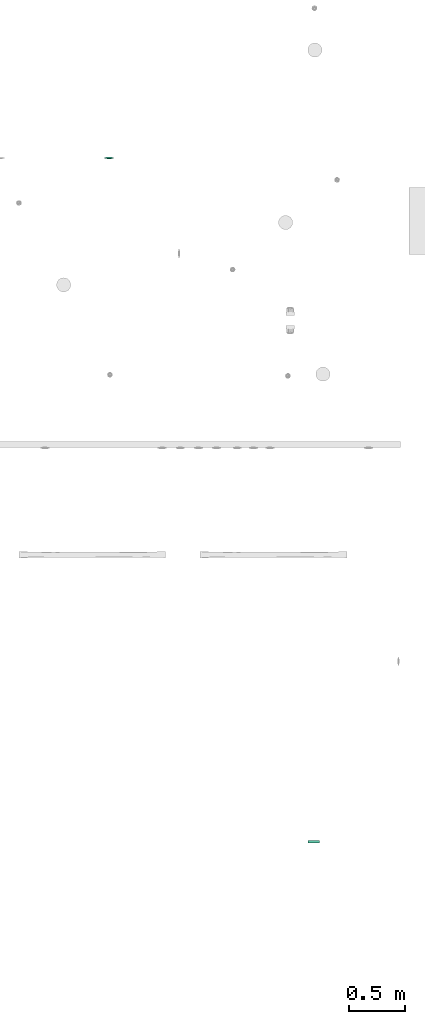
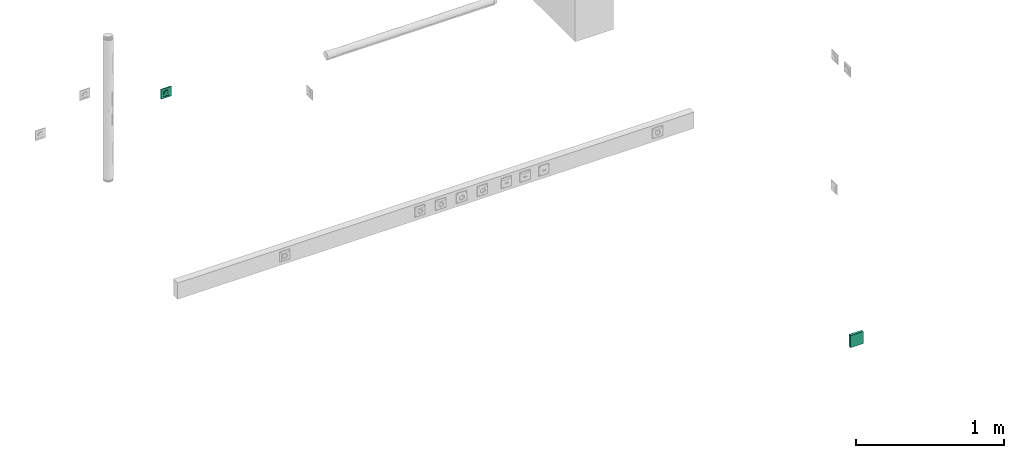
# One storey, part 85 of 166: 2 flow terminals.
"""IFC2X3 building model written with IfcOpenShell, lengths in metres."""

import ifcopenshell
import ifcopenshell.guid

model = None  # the IFC model being written
_history = None  # IfcOwnerHistory: only IFC2X3 demands one
_inside = {}  # id of a spatial element -> (the spatial element, [elements in it])
_under = {}  # id of a project, library or spatial element -> (it, [spatial elements below it])
_declared = {}  # id of a project -> (the project, [libraries it declares])
_typed = {}  # id of a type object -> (the type object, [elements of that type])
_made_of = {}  # id of a material, layer set ... -> (it, [elements and type objects made of it])


def new_model(schema):
    """Start an empty IFC model of exactly this schema.

    Asked for "IFC4X3", IfcOpenShell would pick the latest addendum, in which some entities
    have other attributes; the version numbers below select the first issue.
    IFC2X3 requires an IfcOwnerHistory on every rooted entity: one is made here for all.
    """
    global model, _history
    if schema == "IFC4X3":
        model = ifcopenshell.file(schema_version=(4, 3, 0, 0))
    else:
        model = ifcopenshell.file(schema=schema)
    _inside.clear()
    _under.clear()
    _declared.clear()
    _typed.clear()
    _made_of.clear()
    _history = None
    if model.schema == "IFC2X3":
        org = make("IfcOrganization", Name="unknown")
        user = make(
            "IfcPersonAndOrganization",
            ThePerson=make("IfcPerson", FamilyName="unknown"),
            TheOrganization=org,
        )
        app = make(
            "IfcApplication",
            ApplicationDeveloper=org,
            Version="unknown",
            ApplicationFullName="unknown",
            ApplicationIdentifier="unknown",
        )
        _history = make(
            "IfcOwnerHistory",
            OwningUser=user,
            OwningApplication=app,
            ChangeAction="ADDED",
            CreationDate=0,
        )
    return model


def make(cls, **values):
    """One entity of the class cls with the attributes given. An attribute that is None is left unset."""
    return model.create_entity(
        cls, **{name: value for name, value in values.items() if value is not None}
    )


def entity(cls, *values):
    """Any entity or typed value of the class cls, its attributes in the order of the schema. None: left unset."""
    e = model.create_entity(cls)
    for i, value in enumerate(values):
        if value is not None:
            e[i] = value
    return e


def rooted(cls, **values):
    """An entity with a GlobalId (a new one), such as an element, a storey or a relation."""
    return make(cls, GlobalId=ifcopenshell.guid.new(), OwnerHistory=_history, **values)


def si_unit(unit_type, name, prefix=None):
    """IfcSIUnit, for example si_unit("LENGTHUNIT", "METRE", prefix="MILLI")."""
    return make("IfcSIUnit", UnitType=unit_type, Prefix=prefix, Name=name)


def converted_unit(unit_type, name, factor, base, dimensions=None, offset=None):
    """IfcConversionBasedUnit, such as the inch: factor (a typed value) times the base unit."""
    return make(
        "IfcConversionBasedUnit"
        if offset is None
        else "IfcConversionBasedUnitWithOffset",
        ConversionOffset=offset,
        Dimensions=None
        if dimensions is None
        else entity("IfcDimensionalExponents", *dimensions),
        UnitType=unit_type,
        Name=name,
        ConversionFactor=make(
            "IfcMeasureWithUnit", ValueComponent=factor, UnitComponent=base
        ),
    )


def derived_unit(unit_type, elements):
    """IfcDerivedUnit: a product of units, each with its exponent."""
    return make(
        "IfcDerivedUnit",
        Elements=[
            make("IfcDerivedUnitElement", Unit=unit, Exponent=power)
            for unit, power in elements
        ],
        UnitType=unit_type,
    )


def assignment(units):
    """IfcUnitAssignment: the units of a project."""
    return None if units is None else make("IfcUnitAssignment", Units=units)


def point(xyz):
    """IfcCartesianPoint."""
    return None if xyz is None else make("IfcCartesianPoint", Coordinates=xyz)


def direction(xyz):
    """IfcDirection."""
    return None if xyz is None else make("IfcDirection", DirectionRatios=xyz)


def frame(location, z_axis=None, x_axis=None):
    """IfcAxis2Placement3D, a coordinate frame: its origin and axes. An axis left out is left unset."""
    return make(
        "IfcAxis2Placement3D",
        Location=point(location),
        Axis=direction(z_axis),
        RefDirection=direction(x_axis),
    )


def frame_2d(location, x_axis=None):
    """IfcAxis2Placement2D, a coordinate frame in the plane: its origin and x axis."""
    return make(
        "IfcAxis2Placement2D", Location=point(location), RefDirection=direction(x_axis)
    )


def origin():
    """The frame at (0, 0, 0) with its axes left unset."""
    return frame((0.0, 0.0, 0.0))


def origin_2d_with_axis():
    """The frame at (0, 0) in the plane with the x axis (1, 0) written out."""
    return frame_2d((0.0, 0.0), x_axis=(1.0, 0.0))


def place(relative_to, where):
    """IfcLocalPlacement: puts the frame where relative to a parent placement (None: the world)."""
    return make(
        "IfcLocalPlacement", PlacementRelTo=relative_to, RelativePlacement=where
    )


def context(
    kind, dimensions, precision=None, world=None, true_north=None, identifier=None
):
    """IfcGeometricRepresentationContext, for example the 3D "Model" context."""
    return make(
        "IfcGeometricRepresentationContext",
        ContextIdentifier=identifier,
        ContextType=kind,
        CoordinateSpaceDimension=dimensions,
        Precision=precision,
        WorldCoordinateSystem=world,
        TrueNorth=true_north,
    )


def subcontext(parent, identifier, kind, view, scale=None):
    """IfcGeometricRepresentationSubContext, for example "Body" below "Model"."""
    return make(
        "IfcGeometricRepresentationSubContext",
        ContextIdentifier=identifier,
        ContextType=kind,
        ParentContext=parent,
        TargetScale=scale,
        TargetView=view,
    )


def project(units=None, contexts=None):
    """IfcProject with its units and contexts."""
    return rooted(
        "IfcProject",
        Name="project",
        RepresentationContexts=contexts,
        UnitsInContext=assignment(units),
    )


def spatial(cls, under=None, at=None, **own):
    """A site, building, storey or space (cls), placed at a placement, below another one or the project."""
    s = rooted(cls, ObjectPlacement=at, **own)
    if under is not None:
        _under.setdefault(under.id(), (under, []))[1].append(s)
    return s


def profile(cls, at=None, kind="AREA", **sizes):
    """A parametric profile (cls). Its sizes go by their IFC names, for example OverallWidth=200.0."""
    return make(cls, ProfileType=kind, Position=at, **sizes)


def rectangle(**sizes):
    """IfcRectangleProfileDef."""
    return profile("IfcRectangleProfileDef", **sizes)


def extrude(swept, where, along, depth):
    """IfcExtrudedAreaSolid: the profile swept, set in the frame where, extruded along a direction by depth."""
    return make(
        "IfcExtrudedAreaSolid",
        SweptArea=swept,
        Position=where,
        ExtrudedDirection=direction(along),
        Depth=depth,
    )


def faces_of(points, faces, orient=None, outer=None):
    """IfcFace entities. A face is a list of loops; a loop is a list of indices into points, from 0.

    orient and outer hold one flag for each loop. By default every Orientation is true, the
    first loop of a face is its IfcFaceOuterBound and the others are IfcFaceBound.
    """
    made = []
    for i, loops in enumerate(faces):
        bounds = []
        for j, loop in enumerate(loops):
            is_outer = j == 0 if outer is None else outer[i][j]
            bounds.append(
                make(
                    "IfcFaceOuterBound" if is_outer else "IfcFaceBound",
                    Bound=make("IfcPolyLoop", Polygon=[points[k] for k in loop]),
                    Orientation=True if orient is None else orient[i][j],
                )
            )
        made.append(make("IfcFace", Bounds=bounds))
    return made


def face_set(faces, orient=None, outer=None):
    """The faces of one IfcConnectedFaceSet. surface_model builds it on its shared points."""
    return ("IfcConnectedFaceSet", faces, orient, outer)


def surface_model(cls, points, shells):
    """IfcFaceBasedSurfaceModel or IfcShellBasedSurfaceModel (cls): surfaces that need not close."""
    shared = [point(p) for p in points]
    made = [make(c, CfsFaces=faces_of(shared, fs, o, b)) for c, fs, o, b in shells]
    if cls == "IfcFaceBasedSurfaceModel":
        return make(cls, FbsmFaces=made)
    return make(cls, SbsmBoundary=made)


def shape(context_of_items, identifier, shape_type, items):
    """IfcShapeRepresentation: the items that make up one representation, for example the "Body"."""
    return make(
        "IfcShapeRepresentation",
        ContextOfItems=context_of_items,
        RepresentationIdentifier=identifier,
        RepresentationType=shape_type,
        Items=items,
    )


def source(mapping_origin, context_of_items, identifier, shape_type, items):
    """IfcRepresentationMap: a shape defined once, which mapped items show again and again."""
    return make(
        "IfcRepresentationMap",
        MappingOrigin=mapping_origin,
        MappedRepresentation=shape(context_of_items, identifier, shape_type, items),
    )


def transform(
    local_origin,
    x_axis=None,
    y_axis=None,
    z_axis=None,
    scale=None,
    scale2=None,
    scale3=None,
    uniform=True,
):
    """IfcCartesianTransformationOperator3D, or its non-uniform kind. x_axis, y_axis, z_axis: its Axis1, 2, 3."""
    if uniform:
        return make(
            "IfcCartesianTransformationOperator3D",
            Axis1=direction(x_axis),
            Axis2=direction(y_axis),
            LocalOrigin=point(local_origin),
            Scale=scale,
            Axis3=direction(z_axis),
        )
    return make(
        "IfcCartesianTransformationOperator3DnonUniform",
        Axis1=direction(x_axis),
        Axis2=direction(y_axis),
        LocalOrigin=point(local_origin),
        Scale=scale,
        Axis3=direction(z_axis),
        Scale2=scale2,
        Scale3=scale3,
    )


def mapped(mapping_source, mapping_target):
    """IfcMappedItem: shows the shape of a source again, moved by a transform."""
    return make(
        "IfcMappedItem", MappingSource=mapping_source, MappingTarget=mapping_target
    )


def made_of(thing, what):
    """Note that an element or type object is made of a material, layer set ...; save() writes the relation."""
    if what is not None:
        _made_of.setdefault(what.id(), (what, []))[1].append(thing)
    return thing


def type_object(cls, material=None, **own):
    """A type object (cls), such as IfcWallType, which elements share."""
    return made_of(rooted(cls, **own), material)


def type_shapes(of_type, sources):
    """Give a type object the sources (RepresentationMaps) that its elements show as mapped items."""
    of_type.RepresentationMaps = sources


def element(
    cls,
    number,
    at=None,
    inside=None,
    cuts=None,
    type_object=None,
    material=None,
    context=None,
    identifier="Body",
    shape_type=None,
    held_by="IfcProductDefinitionShape",
    body=None,
    shapes=None,
    **own,
):
    """One element of the class cls, such as IfcWall. Its Tag is "e" and its number.

    at: its placement. inside: the storey or other place that contains it. cuts: it is an
    opening in that element (IfcRelVoidsElement). A single representation is given by context,
    identifier, shape_type and body (its items); several are given by shapes. held_by: the class
    of the entity that holds the representations. save() writes the other relations.
    """
    e = rooted(cls, Tag="e%d" % number, ObjectPlacement=at, **own)
    if body is not None:
        shapes = [shape(context, identifier, shape_type, body)]
    if shapes is not None:
        e.Representation = make(held_by, Representations=shapes)
    if inside is not None:
        _inside.setdefault(inside.id(), (inside, []))[1].append(e)
    if cuts is not None:
        rooted(
            "IfcRelVoidsElement", RelatingBuildingElement=cuts, RelatedOpeningElement=e
        )
    if type_object is not None:
        _typed.setdefault(type_object.id(), (type_object, []))[1].append(e)
    return made_of(e, material)


def aggregate(whole, parts):
    """IfcRelAggregates: a whole, such as a stair, and the parts it consists of."""
    return rooted("IfcRelAggregates", RelatingObject=whole, RelatedObjects=parts)


def save(model, path):
    """Write the relations noted so far, then the file.

    IfcRelAggregates (storeys below a building ...), IfcRelContainedInSpatialStructure (elements
    in a storey), IfcRelDefinesByType, IfcRelAssociatesMaterial and IfcRelDeclares: one each for
    every whole, place, type object, material and project.
    """
    for whole, parts in _under.values():
        aggregate(whole, parts)
    for where, things in _inside.values():
        rooted(
            "IfcRelContainedInSpatialStructure",
            RelatedElements=things,
            RelatingStructure=where,
        )
    for kind, things in _typed.values():
        rooted("IfcRelDefinesByType", RelatedObjects=things, RelatingType=kind)
    for what, things in _made_of.values():
        rooted("IfcRelAssociatesMaterial", RelatedObjects=things, RelatingMaterial=what)
    for by, libraries in _declared.values():
        rooted("IfcRelDeclares", RelatingContext=by, RelatedDefinitions=libraries)
    model.write(path)


model = new_model("IFC2X3")

# Units and contexts
model_context = context("Model", 3, precision=1e-05, world=origin(), true_north=direction((6.12303176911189e-17, 1.0)))
body_context = subcontext(model_context, "Body", "Model", "MODEL_VIEW")
ifc_project = project(units=[si_unit("LENGTHUNIT", "METRE"), si_unit("AREAUNIT", "SQUARE_METRE"), si_unit("VOLUMEUNIT", "CUBIC_METRE"), converted_unit("PLANEANGLEUNIT", "DEGREE", entity("IfcRatioMeasure", 0.0174532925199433), si_unit("PLANEANGLEUNIT", "RADIAN"), dimensions=[0, 0, 0, 0, 0, 0, 0]), si_unit("MASSUNIT", "GRAM", prefix="KILO"), derived_unit("MASSDENSITYUNIT", [(si_unit("MASSUNIT", "GRAM", prefix="KILO"), 1), (si_unit("LENGTHUNIT", "METRE"), -3)]), si_unit("TIMEUNIT", "SECOND"), si_unit("FREQUENCYUNIT", "HERTZ"), si_unit("THERMODYNAMICTEMPERATUREUNIT", "DEGREE_CELSIUS"), derived_unit("THERMALTRANSMITTANCEUNIT", [(si_unit("MASSUNIT", "GRAM", prefix="KILO"), 1), (si_unit("THERMODYNAMICTEMPERATUREUNIT", "KELVIN"), -1), (si_unit("TIMEUNIT", "SECOND"), -3)]), derived_unit("VOLUMETRICFLOWRATEUNIT", [(si_unit("LENGTHUNIT", "METRE"), 3), (si_unit("TIMEUNIT", "SECOND"), -1)]), si_unit("ELECTRICCURRENTUNIT", "AMPERE"), si_unit("ELECTRICVOLTAGEUNIT", "VOLT"), si_unit("POWERUNIT", "WATT"), si_unit("FORCEUNIT", "NEWTON"), si_unit("ILLUMINANCEUNIT", "LUX"), si_unit("LUMINOUSFLUXUNIT", "LUMEN"), si_unit("LUMINOUSINTENSITYUNIT", "CANDELA"), derived_unit("USERDEFINED", [(si_unit("MASSUNIT", "GRAM", prefix="KILO"), -1), (si_unit("LENGTHUNIT", "METRE"), -2), (si_unit("TIMEUNIT", "SECOND"), 3), (si_unit("LUMINOUSFLUXUNIT", "LUMEN"), 1)]), derived_unit("LINEARVELOCITYUNIT", [(si_unit("LENGTHUNIT", "METRE"), 1), (si_unit("TIMEUNIT", "SECOND"), -1)]), si_unit("PRESSUREUNIT", "PASCAL"), derived_unit("USERDEFINED", [(si_unit("LENGTHUNIT", "METRE"), -2), (si_unit("MASSUNIT", "GRAM", prefix="KILO"), 1), (si_unit("TIMEUNIT", "SECOND"), -2)])], contexts=[model_context])

# Site, building, storey
site_placement = place(None, origin())
site = spatial("IfcSite", under=ifc_project, at=site_placement, Name="Default", CompositionType="ELEMENT")
building_placement = place(site_placement, origin())
building = spatial("IfcBuilding", under=site, at=building_placement, CompositionType="ELEMENT")
storey_placement = place(building_placement, frame((0.0, 0.0, 4.27)))
storey = spatial("IfcBuildingStorey", under=building, at=storey_placement, Name="01", CompositionType="ELEMENT", Elevation=4.27)

# Flow terminals
light_fixture_type_1 = type_object("IfcLightFixtureType", Name="Default", PredefinedType="NOTDEFINED")
shared_shape_1 = source(origin(), body_context, "Body", "SweptSolid", [
    extrude(rectangle(XDim=0.1, YDim=0.1, at=origin_2d_with_axis()), frame((0.0, 0.0, 0.0), z_axis=(0.0, 0.0, 1.0), x_axis=(0.0, 1.0, 0.0)), (0.0, 0.0, 1.0), 0.02),
])
type_shapes(light_fixture_type_1, [shared_shape_1])
flow_terminal_1_placement = place(building_placement, frame((48.6692599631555, -193.489651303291, 5.32000000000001), z_axis=(0.0, -1.0, 0.0), x_axis=(1.0, 0.0, 0.0)))
element("IfcFlowTerminal", 1, at=flow_terminal_1_placement, inside=storey, type_object=light_fixture_type_1, Name="E_Reader_Badge 1_F_MEPcontent:Default", ObjectType="E_Reader_Badge 1_F_MEPcontent:Default", context=body_context, shape_type="MappedRepresentation", body=[
    mapped(shared_shape_1, transform((0.0, 0.0, 0.0), scale=1.0)),
])
light_fixture_type_2 = type_object("IfcLightFixtureType", Name="Attente", PredefinedType="NOTDEFINED")
shared_shape_2 = source(origin(), body_context, "Body", "SurfaceModel", [
    surface_model("IfcFaceBasedSurfaceModel", [(0.00225000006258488, 0.00949633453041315, 0.0127499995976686), (0.0, 0.00949633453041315, 0.0104999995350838), (0.0, 0.0101656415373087, 0.0115376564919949), (0.0, 0.0101656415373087, 0.0139623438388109), (0.0, 0.00984531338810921, 0.0144589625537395), (0.0, 0.0102778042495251, 0.0121178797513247), (0.0, 0.0102778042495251, 0.0133821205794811), (0.0, 0.010399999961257, 0.0127499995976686), (0.0, 0.00949633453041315, 0.0149999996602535), (-0.00225000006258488, 0.00949633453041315, 0.0127499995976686), (0.0, 0.00984531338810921, 0.0110410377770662), (0.0, 0.00949633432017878, 0.0127499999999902), (-0.0022499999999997, 0.0094963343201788, 0.0127499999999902), (-0.00217333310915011, 0.00949633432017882, 0.0121676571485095), (-0.0019485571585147, 0.00949633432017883, 0.0116249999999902), (-0.00159099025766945, 0.00949633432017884, 0.0111590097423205), (-0.00112499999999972, 0.00949633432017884, 0.0108014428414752), (-0.000582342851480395, 0.00949633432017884, 0.0105766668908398), (0.0, 0.00949633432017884, 0.0104999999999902), (0.000582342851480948, 0.00949633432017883, 0.0105766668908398), (0.00112500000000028, 0.00949633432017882, 0.0108014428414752), (0.00159099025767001, 0.00949633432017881, 0.0111590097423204), (0.00194855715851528, 0.00949633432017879, 0.0116249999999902), (0.0021733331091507, 0.00949633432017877, 0.0121676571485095), (0.0022500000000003, 0.00949633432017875, 0.0127499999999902), (0.00217333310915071, 0.00949633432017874, 0.0133323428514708), (0.0019485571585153, 0.00949633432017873, 0.0138749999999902), (0.00159099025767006, 0.00949633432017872, 0.0143409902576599), (0.00112500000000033, 0.00949633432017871, 0.0146985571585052), (0.000582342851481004, 0.00949633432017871, 0.0149233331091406), (0.0, 0.00949633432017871, 0.0149999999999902), (-0.000582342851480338, 0.00949633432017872, 0.0149233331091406), (-0.00112499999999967, 0.00949633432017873, 0.0146985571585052), (-0.00159099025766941, 0.00949633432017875, 0.0143409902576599), (-0.00194855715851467, 0.00949633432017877, 0.0138749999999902), (-0.00217333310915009, 0.00949633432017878, 0.0133323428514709), (-0.00224999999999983, -0.00360000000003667, 0.0127499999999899), (-0.00217333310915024, -0.00360000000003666, 0.0121676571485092), (-0.00194855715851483, -0.00360000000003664, 0.0116249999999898), (-0.00159099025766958, -0.00360000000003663, 0.0111590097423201), (-0.00112499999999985, -0.00360000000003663, 0.0108014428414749), (-0.000582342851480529, -0.00360000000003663, 0.0105766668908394), (0.0, -0.00360000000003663, 0.0104999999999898), (0.000582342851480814, -0.00360000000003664, 0.0105766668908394), (0.00112500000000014, -0.00360000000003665, 0.0108014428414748), (0.00159099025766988, -0.00360000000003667, 0.0111590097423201), (0.00194855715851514, -0.00360000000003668, 0.0116249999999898), (0.00217333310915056, -0.0036000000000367, 0.0121676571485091), (0.00225000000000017, -0.00360000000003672, 0.0127499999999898), (0.00217333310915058, -0.00360000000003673, 0.0133323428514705), (0.00194855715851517, -0.00360000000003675, 0.0138749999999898), (0.00159099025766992, -0.00360000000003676, 0.0143409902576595), (0.00112500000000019, -0.00360000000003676, 0.0146985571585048), (0.00058234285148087, -0.00360000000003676, 0.0149233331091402), (0.0, -0.00360000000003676, 0.0149999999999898), (-0.000582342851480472, -0.00360000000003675, 0.0149233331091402), (-0.0011249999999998, -0.00360000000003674, 0.0146985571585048), (-0.00159099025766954, -0.00360000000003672, 0.0143409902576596), (-0.0019485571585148, -0.00360000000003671, 0.0138749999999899), (-0.00217333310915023, -0.00360000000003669, 0.0133323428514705), (-0.0270000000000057, 0.0113999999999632, 0.0269999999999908), (0.0269999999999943, 0.0113999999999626, 0.0269999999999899), (0.0269999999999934, 0.0113999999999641, -0.0270000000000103), (-0.0270000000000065, 0.0113999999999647, -0.0270000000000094), (0.0199999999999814, 0.0113999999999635, 0.0), (0.0193185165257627, 0.0113999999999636, -0.00517638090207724), (0.0173205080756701, 0.0113999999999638, -0.0100000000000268), (0.0141421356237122, 0.0113999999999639, -0.0141421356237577), (0.00999999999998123, 0.011399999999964, -0.0173205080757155), (0.00517638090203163, 0.0113999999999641, -0.019318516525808), (0.0, 0.0113999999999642, -0.0200000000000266), (-0.00517638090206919, 0.0113999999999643, -0.0193185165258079), (-0.0100000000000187, 0.0113999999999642, -0.0173205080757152), (-0.0141421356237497, 0.0113999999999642, -0.0141421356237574), (-0.0173205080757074, 0.0113999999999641, -0.0100000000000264), (-0.0193185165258, 0.011399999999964, -0.0051763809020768), (-0.0200000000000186, 0.0113999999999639, 0.0), (-0.0193185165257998, 0.0113999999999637, 0.00517638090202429), (-0.0173205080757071, 0.0113999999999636, 0.00999999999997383), (-0.0141421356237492, 0.0113999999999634, 0.0141421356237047), (-0.0100000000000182, 0.0113999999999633, 0.0173205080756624), (-0.00517638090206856, 0.0113999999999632, 0.0193185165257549), (0.0, 0.0113999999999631, 0.0199999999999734), (0.00517638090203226, 0.0113999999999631, 0.0193185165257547), (0.0099999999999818, 0.0113999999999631, 0.017320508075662), (0.0141421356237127, 0.0113999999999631, 0.0141421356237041), (0.0173205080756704, 0.0113999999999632, 0.00999999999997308), (0.0193185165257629, 0.0113999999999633, 0.00517638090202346), (-0.0270000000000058, 0.00199999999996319, 0.0269999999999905), (-0.0270000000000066, 0.00199999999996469, -0.0270000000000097), (0.0269999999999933, 0.00199999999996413, -0.0270000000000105), (0.0269999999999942, 0.00199999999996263, 0.0269999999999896), (-0.0210000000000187, 0.00199999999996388, 0.0), (-0.0202844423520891, 0.00199999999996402, -0.00543519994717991), (-0.0181865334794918, 0.00199999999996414, -0.0105000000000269), (-0.0148492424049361, 0.00199999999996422, -0.0148492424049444), (-0.0105000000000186, 0.00199999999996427, -0.0181865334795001), (-0.00543519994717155, 0.00199999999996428, -0.0202844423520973), (0.0, 0.00199999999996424, -0.0210000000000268), (0.00543519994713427, 0.00199999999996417, -0.0202844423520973), (0.0104999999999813, 0.00199999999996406, -0.0181865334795), (0.0148492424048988, 0.00199999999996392, -0.0148492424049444), (0.0181865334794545, 0.00199999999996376, -0.0105000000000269), (0.0202844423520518, 0.0019999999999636, -0.00543519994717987), (0.0209999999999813, 0.00199999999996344, 0.0), (0.0202844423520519, 0.0019999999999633, 0.0054351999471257), (0.0181865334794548, 0.00199999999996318, 0.0104999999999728), (0.0148492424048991, 0.00199999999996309, 0.0148492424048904), (0.0104999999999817, 0.00199999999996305, 0.0181865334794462), (0.00543519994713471, 0.00199999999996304, 0.0202844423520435), (0.0, 0.00199999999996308, 0.0209999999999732), (-0.00543519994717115, 0.00199999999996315, 0.0202844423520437), (-0.0105000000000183, 0.00199999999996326, 0.0181865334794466), (-0.0148492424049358, 0.0019999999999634, 0.014849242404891), (-0.0181865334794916, 0.00199999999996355, 0.0104999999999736), (-0.020284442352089, 0.00199999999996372, 0.00543519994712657), (-0.0200000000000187, -0.00360000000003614, 0.0), (-0.0193185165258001, -0.003600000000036, -0.00517638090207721), (-0.0173205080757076, -0.00360000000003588, -0.0100000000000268), (-0.0141421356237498, -0.0036000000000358, -0.0141421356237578), (-0.0100000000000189, -0.00360000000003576, -0.0173205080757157), (-0.00517638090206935, -0.00360000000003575, -0.0193185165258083), (0.0, -0.00360000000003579, -0.020000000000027), (0.00517638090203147, -0.00360000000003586, -0.0193185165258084), (0.00999999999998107, -0.00360000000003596, -0.0173205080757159), (0.0141421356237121, -0.00360000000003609, -0.0141421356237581), (0.0173205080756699, -0.00360000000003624, -0.0100000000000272), (0.0193185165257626, -0.0036000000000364, -0.00517638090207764), (0.0199999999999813, -0.00360000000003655, 0.0), (0.0193185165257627, -0.00360000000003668, 0.00517638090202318), (0.0173205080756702, -0.0036000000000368, 0.00999999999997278), (0.0141421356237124, -0.00360000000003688, 0.0141421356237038), (0.00999999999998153, -0.00360000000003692, 0.0173205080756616), (0.00517638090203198, -0.00360000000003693, 0.0193185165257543), (0.0, -0.0036000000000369, 0.019999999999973), (-0.00517638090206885, -0.00360000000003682, 0.0193185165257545), (-0.0100000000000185, -0.00360000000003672, 0.0173205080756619), (-0.0141421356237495, -0.00360000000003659, 0.0141421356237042), (-0.0173205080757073, -0.00360000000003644, 0.00999999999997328), (-0.0193185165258, -0.00360000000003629, 0.00517638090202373), (0.0123499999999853, -0.00360000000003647, 0.0), (0.0122562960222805, -0.00360000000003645, -0.000711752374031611), (0.0119815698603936, -0.00360000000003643, -0.00137499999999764), (0.0115445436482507, -0.00360000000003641, -0.00194454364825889), (0.0109749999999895, -0.00360000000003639, -0.00238156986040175), (0.0103117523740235, -0.00360000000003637, -0.00265629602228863), (0.00959999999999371, -0.00360000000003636, -0.00274999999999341), (0.00888824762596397, -0.00360000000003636, -0.00265629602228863), (0.00822499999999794, -0.00360000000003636, -0.00238156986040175), (0.00765545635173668, -0.00360000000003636, -0.00194454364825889), (0.00721843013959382, -0.00360000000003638, -0.00137499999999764), (0.00694370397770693, -0.00360000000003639, -0.000711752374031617), (0.00685000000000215, -0.00360000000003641, 0.0), (0.00694370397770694, -0.00360000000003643, 0.000711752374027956), (0.00721843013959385, -0.00360000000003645, 0.00137499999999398), (0.00765545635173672, -0.00360000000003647, 0.00194454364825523), (0.00822499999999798, -0.00360000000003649, 0.00238156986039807), (0.00888824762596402, -0.00360000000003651, 0.00265629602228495), (0.00959999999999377, -0.00360000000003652, 0.0027499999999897), (0.0103117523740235, -0.00360000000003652, 0.00265629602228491), (0.0109749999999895, -0.00360000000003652, 0.00238156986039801), (0.0115445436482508, -0.00360000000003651, 0.00194454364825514), (0.0119815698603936, -0.0036000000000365, 0.00137499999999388), (0.0122562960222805, -0.00360000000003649, 0.000711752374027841), (-0.00685000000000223, -0.00360000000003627, 0.0), (-0.00694370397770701, -0.00360000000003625, -0.000711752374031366), (-0.0072184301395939, -0.00360000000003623, -0.00137499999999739), (-0.00765545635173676, -0.00360000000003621, -0.00194454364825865), (-0.00822499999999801, -0.00360000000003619, -0.0023815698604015), (-0.00888824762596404, -0.00360000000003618, -0.00265629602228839), (-0.00959999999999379, -0.00360000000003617, -0.00274999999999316), (-0.0103117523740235, -0.00360000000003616, -0.00265629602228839), (-0.0109749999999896, -0.00360000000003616, -0.00238156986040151), (-0.0115445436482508, -0.00360000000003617, -0.00194454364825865), (-0.0119815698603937, -0.00360000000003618, -0.0013749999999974), (-0.0122562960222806, -0.0036000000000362, -0.000711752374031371), (-0.0123499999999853, -0.00360000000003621, 0.0), (-0.0122562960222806, -0.00360000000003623, 0.000711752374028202), (-0.0119815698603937, -0.00360000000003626, 0.00137499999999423), (-0.0115445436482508, -0.00360000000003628, 0.00194454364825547), (-0.0109749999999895, -0.00360000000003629, 0.00238156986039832), (-0.0103117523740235, -0.00360000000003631, 0.00265629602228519), (-0.00959999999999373, -0.00360000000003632, 0.00274999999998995), (-0.00888824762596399, -0.00360000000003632, 0.00265629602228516), (-0.00822499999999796, -0.00360000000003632, 0.00238156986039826), (-0.00765545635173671, -0.00360000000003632, 0.00194454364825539), (-0.00721843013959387, -0.0036000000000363, 0.00137499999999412), (-0.00694370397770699, -0.00360000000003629, 0.000711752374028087), (-0.0210000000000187, -0.00460000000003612, 0.0), (-0.0202844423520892, -0.00460000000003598, -0.00543519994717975), (-0.018186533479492, -0.00460000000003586, -0.0105000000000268), (-0.0148492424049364, -0.00460000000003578, -0.0148492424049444), (-0.0105000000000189, -0.00460000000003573, -0.0181865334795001), (-0.00543519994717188, -0.00460000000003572, -0.0202844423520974), (0.0, -0.00460000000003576, -0.021000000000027), (0.00543519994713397, -0.00460000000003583, -0.0202844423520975), (0.0104999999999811, -0.00460000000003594, -0.0181865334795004), (0.0148492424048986, -0.00460000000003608, -0.0148492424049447), (0.0181865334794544, -0.00460000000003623, -0.0105000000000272), (0.0202844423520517, -0.0046000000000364, -0.0054351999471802), (0.0209999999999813, -0.00460000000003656, 0.0), (0.0202844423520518, -0.0046000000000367, 0.00543519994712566), (0.0181865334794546, -0.00460000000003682, 0.0104999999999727), (0.014849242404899, -0.00460000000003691, 0.0148492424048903), (0.0104999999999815, -0.00460000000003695, 0.0181865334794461), (0.0054351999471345, -0.00460000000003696, 0.0202844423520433), (0.0, -0.00460000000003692, 0.020999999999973), (-0.00543519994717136, -0.00460000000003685, 0.0202844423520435), (-0.0105000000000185, -0.00460000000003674, 0.0181865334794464), (-0.014849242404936, -0.0046000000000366, 0.0148492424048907), (-0.0181865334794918, -0.00460000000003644, 0.0104999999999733), (-0.0202844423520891, -0.00460000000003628, 0.00543519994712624), (0.00685000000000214, -0.00460000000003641, 0.0), (0.00694370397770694, -0.00460000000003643, 0.000711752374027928), (0.00721843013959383, -0.00460000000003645, 0.00137499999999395), (0.0076554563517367, -0.00460000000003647, 0.0019445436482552), (0.00822499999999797, -0.00460000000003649, 0.00238156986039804), (0.00888824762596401, -0.0046000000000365, 0.00265629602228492), (0.00959999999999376, -0.00460000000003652, 0.00274999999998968), (0.0103117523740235, -0.00460000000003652, 0.00265629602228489), (0.0109749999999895, -0.00460000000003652, 0.00238156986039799), (0.0115445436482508, -0.00460000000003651, 0.00194454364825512), (0.0119815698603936, -0.0046000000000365, 0.00137499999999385), (0.0122562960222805, -0.00460000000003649, 0.000711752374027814), (0.0123499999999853, -0.00460000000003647, 0.0), (0.0122562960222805, -0.00460000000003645, -0.00071175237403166), (0.0119815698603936, -0.00460000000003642, -0.00137499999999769), (0.0115445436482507, -0.0046000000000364, -0.00194454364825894), (0.0109749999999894, -0.00460000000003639, -0.00238156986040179), (0.0103117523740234, -0.00460000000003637, -0.00265629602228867), (0.00959999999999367, -0.00460000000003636, -0.00274999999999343), (0.00888824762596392, -0.00460000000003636, -0.00265629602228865), (0.00822499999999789, -0.00460000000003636, -0.00238156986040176), (0.00765545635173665, -0.00460000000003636, -0.00194454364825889), (0.00721843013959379, -0.00460000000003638, -0.00137499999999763), (0.00694370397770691, -0.00460000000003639, -0.0007117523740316), (-0.0123499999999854, -0.00460000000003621, 0.0), (-0.0122562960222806, -0.00460000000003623, 0.000711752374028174), (-0.0119815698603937, -0.00460000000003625, 0.0013749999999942), (-0.0115445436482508, -0.00460000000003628, 0.00194454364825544), (-0.0109749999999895, -0.00460000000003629, 0.00238156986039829), (-0.0103117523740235, -0.00460000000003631, 0.00265629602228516), (-0.00959999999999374, -0.00460000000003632, 0.00274999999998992), (-0.008888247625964, -0.00460000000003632, 0.00265629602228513), (-0.00822499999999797, -0.00460000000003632, 0.00238156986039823), (-0.00765545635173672, -0.00460000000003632, 0.00194454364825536), (-0.00721843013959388, -0.0046000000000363, 0.0013749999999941), (-0.006943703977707, -0.00460000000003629, 0.000711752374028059), (-0.00685000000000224, -0.00460000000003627, 0.0), (-0.00694370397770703, -0.00460000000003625, -0.000711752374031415), (-0.00721843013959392, -0.00460000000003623, -0.00137499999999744), (-0.00765545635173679, -0.00460000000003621, -0.00194454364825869), (-0.00822499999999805, -0.00460000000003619, -0.00238156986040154), (-0.00888824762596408, -0.00460000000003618, -0.00265629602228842), (-0.00959999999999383, -0.00460000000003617, -0.00274999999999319), (-0.0103117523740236, -0.00460000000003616, -0.00265629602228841), (-0.0109749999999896, -0.00460000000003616, -0.00238156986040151), (-0.0115445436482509, -0.00460000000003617, -0.00194454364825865), (-0.0119815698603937, -0.00460000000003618, -0.00137499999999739), (-0.0122562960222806, -0.00460000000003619, -0.000711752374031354), (-0.0403499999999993, 0.00659999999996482, 0.0403499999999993), (-0.0403500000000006, 0.00659999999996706, -0.0403500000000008), (0.0403499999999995, 0.00659999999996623, -0.0403500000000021), (0.0403500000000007, 0.00659999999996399, 0.040349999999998), (-0.0269999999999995, 0.00659999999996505, 0.026999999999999), (0.0270000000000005, 0.0065999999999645, 0.0269999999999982), (0.0269999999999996, 0.006599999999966, -0.0270000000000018), (-0.0270000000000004, 0.00659999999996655, -0.027000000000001), (-0.0269999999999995, 0.0103999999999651, 0.0269999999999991), (0.0270000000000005, 0.0103999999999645, 0.0269999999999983), (0.0269999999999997, 0.010399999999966, -0.0270000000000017), (-0.0270000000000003, 0.0103999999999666, -0.0270000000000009), (-0.0403499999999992, 0.00659999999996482, 0.0403499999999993), (-0.0403500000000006, 0.00659999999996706, -0.0403500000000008), (0.0403499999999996, 0.00659999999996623, -0.0403500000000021), (0.0403500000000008, 0.00659999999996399, 0.040349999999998), (0.0270000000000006, 0.0065999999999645, 0.0269999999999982), (0.0269999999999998, 0.006599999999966, -0.0270000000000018), (-0.0270000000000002, 0.00659999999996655, -0.027000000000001), (-0.0269999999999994, 0.00659999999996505, 0.026999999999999), (-0.0403499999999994, 0.0, 0.0403499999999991), (-0.0403500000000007, 0.0, -0.040350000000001), (0.0403499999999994, 0.0, -0.0403500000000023), (0.0403500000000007, 0.0, 0.0403499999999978), (-0.0269999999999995, 0.0, 0.0269999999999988), (0.0270000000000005, 0.0, 0.026999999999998), (0.0269999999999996, 0.0, -0.027000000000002), (-0.0270000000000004, 0.0, -0.0270000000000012)], [face_set([[[0, 1, 2]], [[3, 4, 2, 5]], [[6, 3, 5, 7]], [[2, 4, 0]], [[4, 8, 0]], [[3, 9, 8]], [[1, 9, 10]], [[2, 3, 6, 7]], [[3, 10, 9]], [[2, 10, 3]], [[11, 1, 0, 8]], [[11, 8, 9, 1]]]), face_set([[[12, 13, 14, 15, 16, 17, 18, 19, 20, 21, 22, 23, 24, 25, 26, 27, 28, 29, 30, 31, 32, 33, 34, 35]], [[36, 37, 38, 39, 40, 41, 42, 43, 44, 45, 46, 47, 48, 49, 50, 51, 52, 53, 54, 55, 56, 57, 58, 59]], [[48, 47, 23, 24]], [[47, 46, 22, 23]], [[45, 44, 20, 21]], [[46, 45, 21, 22]], [[44, 43, 19, 20]], [[18, 19, 43, 42]], [[42, 41, 17, 18]], [[41, 40, 16, 17]], [[39, 38, 14, 15]], [[40, 39, 15, 16]], [[38, 37, 13, 14]], [[12, 13, 37, 36]], [[36, 59, 35, 12]], [[59, 58, 34, 35]], [[57, 56, 32, 33]], [[58, 57, 33, 34]], [[56, 55, 31, 32]], [[30, 31, 55, 54]], [[54, 53, 29, 30]], [[53, 52, 28, 29]], [[51, 50, 26, 27]], [[52, 51, 27, 28]], [[50, 49, 25, 26]], [[24, 25, 49, 48]]]), face_set([[[60, 61, 62, 63], [64, 65, 66, 67, 68, 69, 70, 71, 72, 73, 74, 75, 76, 77, 78, 79, 80, 81, 82, 83, 84, 85, 86, 87]], [[88, 89, 90, 91], [92, 93, 94, 95, 96, 97, 98, 99, 100, 101, 102, 103, 104, 105, 106, 107, 108, 109, 110, 111, 112, 113, 114, 115]], [[61, 60, 88, 91]], [[62, 61, 91, 90]], [[63, 62, 90, 89]], [[60, 63, 89, 88]], [[116, 117, 118, 119, 120, 121, 122, 123, 124, 125, 126, 127, 128, 129, 130, 131, 132, 133, 134, 135, 136, 137, 138, 139], [140, 141, 142, 143, 144, 145, 146, 147, 148, 149, 150, 151, 152, 153, 154, 155, 156, 157, 158, 159, 160, 161, 162, 163], [164, 165, 166, 167, 168, 169, 170, 171, 172, 173, 174, 175, 176, 177, 178, 179, 180, 181, 182, 183, 184, 185, 186, 187]], [[64, 128, 127, 65]], [[65, 127, 126, 66]], [[67, 125, 124, 68]], [[66, 126, 125, 67]], [[68, 124, 123, 69]], [[122, 70, 69, 123]], [[70, 122, 121, 71]], [[71, 121, 120, 72]], [[73, 119, 118, 74]], [[72, 120, 119, 73]], [[74, 118, 117, 75]], [[116, 76, 75, 117]], [[76, 116, 139, 77]], [[77, 139, 138, 78]], [[79, 137, 136, 80]], [[78, 138, 137, 79]], [[80, 136, 135, 81]], [[134, 82, 81, 135]], [[82, 134, 133, 83]], [[83, 133, 132, 84]], [[84, 132, 131, 85]], [[85, 131, 130, 86]], [[130, 129, 87, 86]], [[64, 87, 129, 128]], [[188, 189, 190, 191, 192, 193, 194, 195, 196, 197, 198, 199, 200, 201, 202, 203, 204, 205, 206, 207, 208, 209, 210, 211], [212, 213, 214, 215, 216, 217, 218, 219, 220, 221, 222, 223, 224, 225, 226, 227, 228, 229, 230, 231, 232, 233, 234, 235], [236, 237, 238, 239, 240, 241, 242, 243, 244, 245, 246, 247, 248, 249, 250, 251, 252, 253, 254, 255, 256, 257, 258, 259]], [[200, 199, 103, 104]], [[199, 198, 102, 103]], [[197, 196, 100, 101]], [[198, 197, 101, 102]], [[196, 195, 99, 100]], [[98, 99, 195, 194]], [[194, 193, 97, 98]], [[193, 192, 96, 97]], [[191, 190, 94, 95]], [[192, 191, 95, 96]], [[190, 189, 93, 94]], [[92, 93, 189, 188]], [[188, 211, 115, 92]], [[211, 210, 114, 115]], [[209, 208, 112, 113]], [[210, 209, 113, 114]], [[208, 207, 111, 112]], [[110, 111, 207, 206]], [[206, 205, 109, 110]], [[205, 204, 108, 109]], [[203, 202, 106, 107]], [[204, 203, 107, 108]], [[202, 201, 105, 106]], [[104, 105, 201, 200]], [[141, 225, 226, 142]], [[140, 224, 225, 141]], [[144, 228, 229, 145]], [[143, 227, 228, 144]], [[142, 226, 227, 143]], [[230, 146, 145, 229]], [[149, 233, 232, 148]], [[148, 232, 231, 147]], [[152, 212, 235, 151]], [[151, 235, 234, 150]], [[150, 234, 233, 149]], [[146, 230, 231, 147]], [[154, 214, 213, 153]], [[153, 213, 212, 152]], [[157, 217, 216, 156]], [[156, 216, 215, 155]], [[155, 215, 214, 154]], [[218, 158, 157, 217]], [[160, 220, 221, 161]], [[159, 219, 220, 160]], [[163, 223, 224, 140]], [[162, 222, 223, 163]], [[161, 221, 222, 162]], [[158, 218, 219, 159]], [[166, 250, 249, 165]], [[165, 249, 248, 164]], [[169, 253, 252, 168]], [[168, 252, 251, 167]], [[167, 251, 250, 166]], [[254, 170, 169, 253]], [[172, 256, 257, 173]], [[171, 255, 256, 172]], [[175, 259, 236, 176]], [[174, 258, 259, 175]], [[173, 257, 258, 174]], [[170, 254, 255, 171]], [[177, 237, 238, 178]], [[176, 236, 237, 177]], [[180, 240, 241, 181]], [[179, 239, 240, 180]], [[178, 238, 239, 179]], [[242, 182, 181, 241]], [[185, 245, 244, 184]], [[184, 244, 243, 183]], [[164, 248, 247, 187]], [[187, 247, 246, 186]], [[186, 246, 245, 185]], [[182, 242, 243, 183]]]), face_set([[[260, 261, 262, 263], [264, 265, 266, 267]], [[260, 268, 269, 263]], [[263, 269, 270, 262]], [[262, 270, 271, 261]], [[261, 271, 268, 260]], [[264, 265, 269, 268]], [[265, 266, 270, 269]], [[266, 267, 271, 270]], [[268, 271, 267, 264]]]), face_set([[[272, 273, 274, 275], [276, 277, 278, 279]], [[280, 281, 282, 283], [284, 285, 286, 287]], [[275, 272, 280, 283]], [[274, 275, 283, 282]], [[273, 274, 282, 281]], [[272, 273, 281, 280]], [[284, 285, 276, 279]], [[285, 286, 277, 276]], [[286, 287, 278, 277]], [[279, 278, 287, 284]]])]),
])
type_shapes(light_fixture_type_2, [shared_shape_2])
flow_terminal_2_placement = place(storey_placement, frame((46.8308292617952, -187.358605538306, 0.0)))
element("IfcFlowTerminal", 2, at=flow_terminal_2_placement, inside=storey, type_object=light_fixture_type_2, Name="INT_Attente électrique:Attente", ObjectType="INT_Attente électrique:Attente", context=body_context, shape_type="MappedRepresentation", body=[
    mapped(shared_shape_2, transform((0.0, 0.0, 0.0), scale=1.0)),
])

save(model, "model.ifc")
